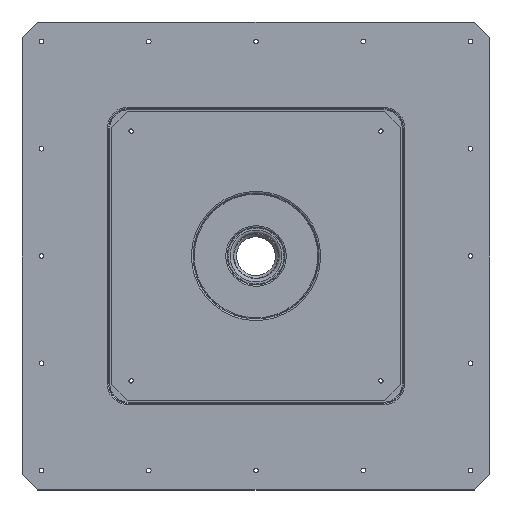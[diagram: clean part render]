
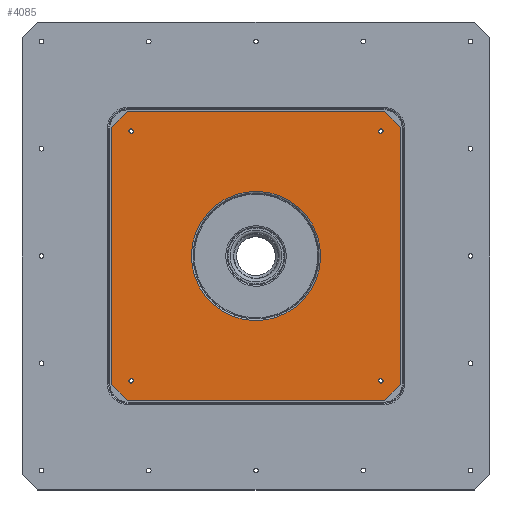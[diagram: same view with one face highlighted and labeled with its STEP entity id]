
A CAD part, top view. The second image highlights one B-rep face of the part: STEP entity #4085.
In plain terms, the highlighted planar face has unit normal (0, 0, 1).
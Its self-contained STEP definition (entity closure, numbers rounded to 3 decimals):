
#242=LINE('',#6078,#386);
#243=LINE('',#6080,#387);
#244=LINE('',#6082,#388);
#245=LINE('',#6084,#389);
#246=LINE('',#6086,#390);
#247=LINE('',#6088,#391);
#248=LINE('',#6090,#392);
#249=LINE('',#6091,#393);
#386=VECTOR('',#4911,330.);
#387=VECTOR('',#4912,28.284);
#388=VECTOR('',#4913,330.);
#389=VECTOR('',#4914,28.284);
#390=VECTOR('',#4915,330.);
#391=VECTOR('',#4916,28.284);
#392=VECTOR('',#4917,330.);
#393=VECTOR('',#4918,28.284);
#530=PLANE('',#4393);
#623=FACE_BOUND('',#1201,.T.);
#624=FACE_BOUND('',#1202,.T.);
#625=FACE_BOUND('',#1203,.T.);
#626=FACE_BOUND('',#1204,.T.);
#627=FACE_BOUND('',#1205,.T.);
#929=FACE_OUTER_BOUND('',#1200,.T.);
#1200=EDGE_LOOP('',(#2875,#2876,#2877,#2878,#2879,#2880,#2881,#2882));
#1201=EDGE_LOOP('',(#2883));
#1202=EDGE_LOOP('',(#2884));
#1203=EDGE_LOOP('',(#2885));
#1204=EDGE_LOOP('',(#2886));
#1205=EDGE_LOOP('',(#2887));
#1774=CIRCLE('',#4391,82.824);
#1776=CIRCLE('',#4394,3.);
#1777=CIRCLE('',#4395,3.);
#1778=CIRCLE('',#4396,3.);
#1779=CIRCLE('',#4397,3.);
#2039=VERTEX_POINT('',#6071);
#2041=VERTEX_POINT('',#6076);
#2042=VERTEX_POINT('',#6077);
#2043=VERTEX_POINT('',#6079);
#2044=VERTEX_POINT('',#6081);
#2045=VERTEX_POINT('',#6083);
#2046=VERTEX_POINT('',#6085);
#2047=VERTEX_POINT('',#6087);
#2048=VERTEX_POINT('',#6089);
#2049=VERTEX_POINT('',#6092);
#2050=VERTEX_POINT('',#6094);
#2051=VERTEX_POINT('',#6096);
#2052=VERTEX_POINT('',#6098);
#2416=EDGE_CURVE('',#2039,#2039,#1774,.T.);
#2418=EDGE_CURVE('',#2041,#2042,#242,.T.);
#2419=EDGE_CURVE('',#2042,#2043,#243,.T.);
#2420=EDGE_CURVE('',#2043,#2044,#244,.T.);
#2421=EDGE_CURVE('',#2044,#2045,#245,.T.);
#2422=EDGE_CURVE('',#2045,#2046,#246,.T.);
#2423=EDGE_CURVE('',#2046,#2047,#247,.T.);
#2424=EDGE_CURVE('',#2047,#2048,#248,.T.);
#2425=EDGE_CURVE('',#2048,#2041,#249,.T.);
#2426=EDGE_CURVE('',#2049,#2049,#1776,.T.);
#2427=EDGE_CURVE('',#2050,#2050,#1777,.T.);
#2428=EDGE_CURVE('',#2051,#2051,#1778,.T.);
#2429=EDGE_CURVE('',#2052,#2052,#1779,.T.);
#2875=ORIENTED_EDGE('',*,*,#2418,.T.);
#2876=ORIENTED_EDGE('',*,*,#2419,.T.);
#2877=ORIENTED_EDGE('',*,*,#2420,.T.);
#2878=ORIENTED_EDGE('',*,*,#2421,.T.);
#2879=ORIENTED_EDGE('',*,*,#2422,.T.);
#2880=ORIENTED_EDGE('',*,*,#2423,.T.);
#2881=ORIENTED_EDGE('',*,*,#2424,.T.);
#2882=ORIENTED_EDGE('',*,*,#2425,.T.);
#2883=ORIENTED_EDGE('',*,*,#2416,.F.);
#2884=ORIENTED_EDGE('',*,*,#2426,.F.);
#2885=ORIENTED_EDGE('',*,*,#2427,.F.);
#2886=ORIENTED_EDGE('',*,*,#2428,.F.);
#2887=ORIENTED_EDGE('',*,*,#2429,.F.);
#4085=ADVANCED_FACE('',(#929,#623,#624,#625,#626,#627),#530,.T.);
#4391=AXIS2_PLACEMENT_3D('',#6072,#4905,#4906);
#4393=AXIS2_PLACEMENT_3D('',#6075,#4909,#4910);
#4394=AXIS2_PLACEMENT_3D('',#6093,#4919,#4920);
#4395=AXIS2_PLACEMENT_3D('',#6095,#4921,#4922);
#4396=AXIS2_PLACEMENT_3D('',#6097,#4923,#4924);
#4397=AXIS2_PLACEMENT_3D('',#6099,#4925,#4926);
#4905=DIRECTION('center_axis',(0.,0.,
1.));
#4906=DIRECTION('ref_axis',(-0.479,0.878,0.));
#4909=DIRECTION('center_axis',(0.,0.,
1.));
#4910=DIRECTION('ref_axis',(1.,0.,0.));
#4911=DIRECTION('',(-1.,0.,0.));
#4912=DIRECTION('',(-0.707,-0.707,0.));
#4913=DIRECTION('',(0.,-1.,0.));
#4914=DIRECTION('',(0.707,-0.707,0.));
#4915=DIRECTION('',(1.,0.,0.));
#4916=DIRECTION('',(0.707,0.707,0.));
#4917=DIRECTION('',(0.,1.,0.));
#4918=DIRECTION('',(-0.707,0.707,0.));
#4919=DIRECTION('center_axis',(0.,0.,
1.));
#4920=DIRECTION('ref_axis',(1.,0.,0.));
#4921=DIRECTION('center_axis',(0.,0.,
1.));
#4922=DIRECTION('ref_axis',(1.,0.,0.));
#4923=DIRECTION('center_axis',(0.,0.,
1.));
#4924=DIRECTION('ref_axis',(1.,0.,0.));
#4925=DIRECTION('center_axis',(0.,0.,
1.));
#4926=DIRECTION('ref_axis',(1.,0.,0.));
#6071=CARTESIAN_POINT('',(-39.708,72.685,0.));
#6072=CARTESIAN_POINT('Origin',(0.,0.,
0.));
#6075=CARTESIAN_POINT('Origin',(0.,82.824,0.));
#6076=CARTESIAN_POINT('',(165.,185.,0.));
#6077=CARTESIAN_POINT('',(-165.,185.,0.));
#6078=CARTESIAN_POINT('',(165.,185.,0.));
#6079=CARTESIAN_POINT('',(-185.,165.,0.));
#6080=CARTESIAN_POINT('',(-165.,185.,0.));
#6081=CARTESIAN_POINT('',(-185.,-165.,0.));
#6082=CARTESIAN_POINT('',(-185.,165.,0.));
#6083=CARTESIAN_POINT('',(-165.,-185.,0.));
#6084=CARTESIAN_POINT('',(-185.,-165.,0.));
#6085=CARTESIAN_POINT('',(165.,-185.,0.));
#6086=CARTESIAN_POINT('',(-165.,-185.,0.));
#6087=CARTESIAN_POINT('',(185.,-165.,0.));
#6088=CARTESIAN_POINT('',(165.,-185.,0.));
#6089=CARTESIAN_POINT('',(185.,165.,0.));
#6090=CARTESIAN_POINT('',(185.,-165.,0.));
#6091=CARTESIAN_POINT('',(185.,165.,0.));
#6092=CARTESIAN_POINT('',(157.,-160.,0.));
#6093=CARTESIAN_POINT('Origin',(160.,-160.,0.));
#6094=CARTESIAN_POINT('',(157.,160.,0.));
#6095=CARTESIAN_POINT('Origin',(160.,160.,0.));
#6096=CARTESIAN_POINT('',(-163.,160.,0.));
#6097=CARTESIAN_POINT('Origin',(-160.,160.,0.));
#6098=CARTESIAN_POINT('',(-163.,-160.,0.));
#6099=CARTESIAN_POINT('Origin',(-160.,-160.,0.));
